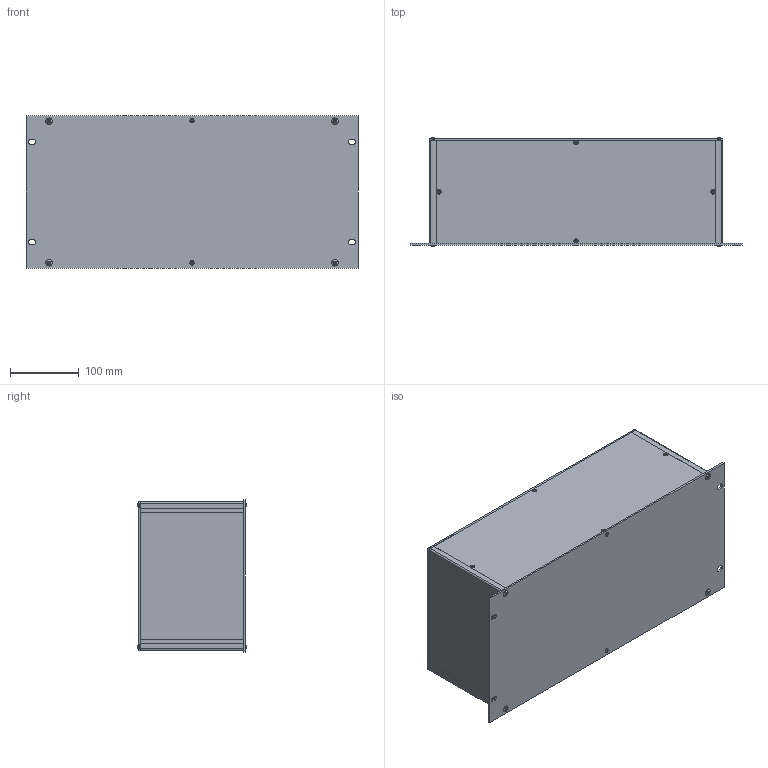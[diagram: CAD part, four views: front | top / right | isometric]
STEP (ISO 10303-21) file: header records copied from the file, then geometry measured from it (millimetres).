
FILE_DESCRIPTION(/* description */ (''),/* implementation_level */ '2;1');
FILE_NAME(/* name */ '//diskstation/Kunden/Gehäuse/Gehäuse/5HE/step/19 Zoll 5HE Rack Gehäuse Tiefe-150.step',/* time_stamp */ '2022-02-17T16:48:23+01:00',/* author */ (''),/* organization */ (''),/* preprocessor_version */ 'ST-DEVELOPER v18.1',/* originating_system */ 'Autodesk Translation Framework v10.10.0.1391',/* authorisation */ '');
FILE_SCHEMA (('AUTOMOTIVE_DESIGN { 1 0 10303 214 3 1 1 }'));
Length unit declared in the file: millimetre
Products named in the file (28): 5HE Gehäuse mit parametern; Gehäuse; Gehäuseprofil 1 unten links; Gehäuseprofil 2 oben rechts; Gehäuseprofil 1 unten rechts; Gehäuseprofil 2 oben links; Rückplatte; Deckel; Seitenteil links; Seitenteil rechts; Bodenplatte; Montageklotz Front/Deckel; Montageklotz Front/Boden; Montageklotz Rück/Deckel; Montageklotz Rück/Boden; Gewindestreifen; Frontplatte; Schrauben M5; Schraube Front; Schraube Front (1); Schraube Front (2); Schraube Front (3); Schraube Rück (1); Schraube Rück; Schraube Rück (2); Schraube Rück (3); Schrauben M3; HI_Senkschraube DIN 965 A v2 M3x5 24677.030.005(High)
Assembly tree (37 placements, depth 3):
  5HE Gehäuse mit parametern
    Gehäuse
      Gehäuseprofil 1 unten links
      Gehäuseprofil 2 oben rechts
      Gehäuseprofil 1 unten rechts
      Gehäuseprofil 2 oben links
      Rückplatte
      Deckel
      Seitenteil links
      Seitenteil rechts
      Bodenplatte
      Montageklotz Front/Deckel
      Montageklotz Front/Boden
      Montageklotz Rück/Deckel
      Montageklotz Rück/Boden
      Gewindestreifen  x2
    Frontplatte
    Schrauben M5
      Schraube Front
      Schraube Front (1)
      Schraube Front (2)
      Schraube Front (3)
      Schraube Rück (1)
      Schraube Rück
      Schraube Rück (2)
      Schraube Rück (3)
    Schrauben M3
      HI_Senkschraube DIN 965 A v2 M3x5 24677.030.005(High)  x10
Bounding box: 483 x 158.2 x 221.4 mm (x, y, z)
Volume: 981565 mm3; surface area: 841126.6 mm2
Topology: 34 solids, 34 shells, 822 faces, 1980 edges, 1226 vertices
Faces by surface type: plane 346, cylinder 296, cone 164, torus 8, bspline 8
Full cylindrical faces by diameter (mm): 2.529 x50, 3 x10, 3.2 x10, 4.234 x40, 5 x8, 5.2 x4, 5.3 x8, 5.6 x10, 9.5 x8
Entity records: 16201 total; most frequent: CARTESIAN_POINT 2982, DIRECTION 2704, ORIENTED_EDGE 2394, EDGE_CURVE 1197, AXIS2_PLACEMENT_3D 1008, VERTEX_POINT 746, LINE 688, VECTOR 688
